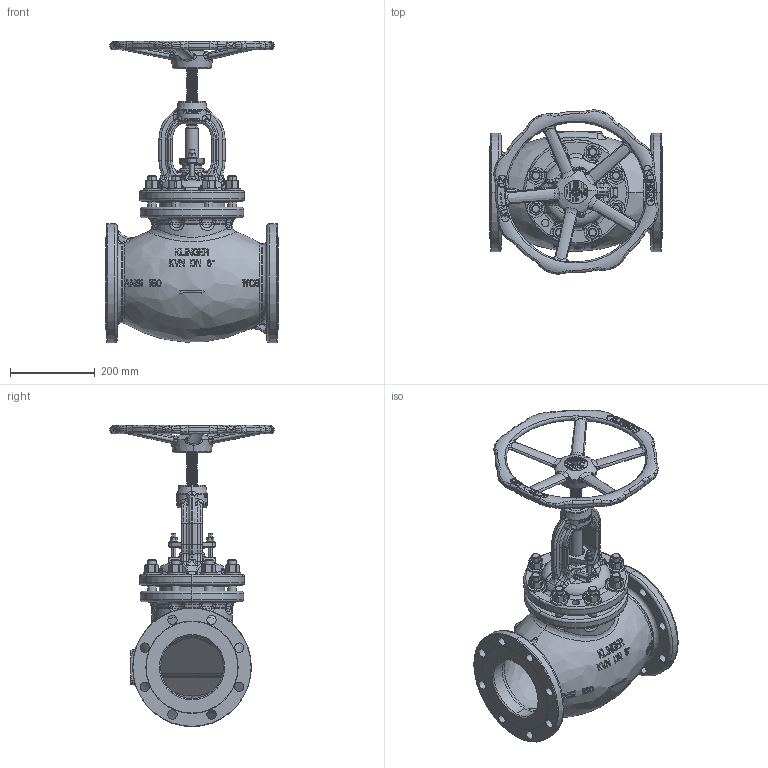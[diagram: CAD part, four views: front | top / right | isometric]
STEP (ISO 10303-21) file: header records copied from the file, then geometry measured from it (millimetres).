
FILE_DESCRIPTION((''),'2;1');
FILE_NAME('KVNFL-6-S-----C150PGG_SW0001','2019-04-23T15:03:53',('jeitlers'),('KLINGER'),'CREO PARAMETRIC BY PTC INC, 2018420','CREO PARAMETRIC BY PTC INC, 2018420','');
FILE_SCHEMA(('AUTOMOTIVE_DESIGN { 1 0 10303 214 1 1 1 1 }'));
Products named in the file (1): KVNFL-6-S-----C150PGG_SW0001
Bounding box: 406 x 387.04 x 709.9 mm (x, y, z)
Volume: 12985479.3 mm3; surface area: 1667155.2 mm2
Topology: 3 solids, 3 shells, 4734 faces, 12442 edges, 7883 vertices
Faces by surface type: plane 2661, bspline 791, cylinder 715, torus 309, cone 236, sphere 22
Entity records: 285452 total; most frequent: CARTESIAN_POINT 175976, ORIENTED_EDGE 24876, DIRECTION 19673, EDGE_CURVE 12438, VERTEX_POINT 7883, AXIS2_PLACEMENT_3D 6884, VECTOR 5902, LINE 5902
